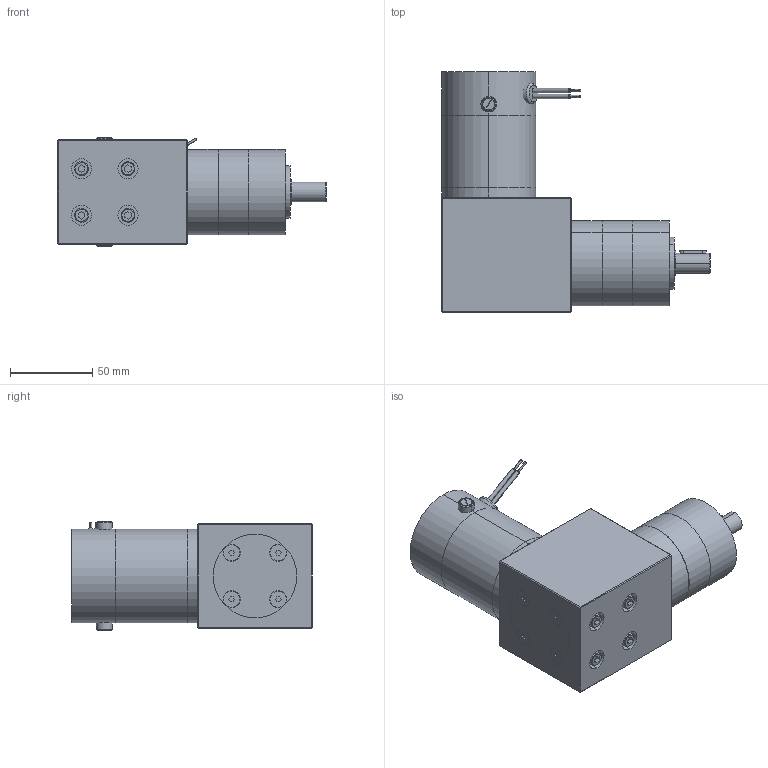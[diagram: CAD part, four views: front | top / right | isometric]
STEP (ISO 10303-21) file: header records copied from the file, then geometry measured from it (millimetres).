
FILE_DESCRIPTION (( 'STEP AP203' ), '1' );
FILE_NAME ('d22301gra2.step', '2018-12-07T19:22:01', ( '' ), ( '' ), 'SwSTEP 2.0', 'SolidWorks 2017', '' );
FILE_SCHEMA (( 'CONFIG_CONTROL_DESIGN' ));
Length unit declared in the file: inch
Products named in the file (1): d22301gra2
Bounding box: 163.27 x 146.35 x 66.04 mm (x, y, z)
Volume: 664497.6 mm3; surface area: 112043.4 mm2
Topology: 24 solids, 24 shells, 925 faces, 2063 edges, 1234 vertices
Faces by surface type: cylinder 340, cone 329, plane 245, torus 7, sphere 4
Entity records: 25822 total; most frequent: DIRECTION 4893, CARTESIAN_POINT 4533, ORIENTED_EDGE 4078, EDGE_CURVE 2039, AXIS2_PLACEMENT_3D 1944, VERTEX_POINT 1234, EDGE_LOOP 1039, CIRCLE 1018
